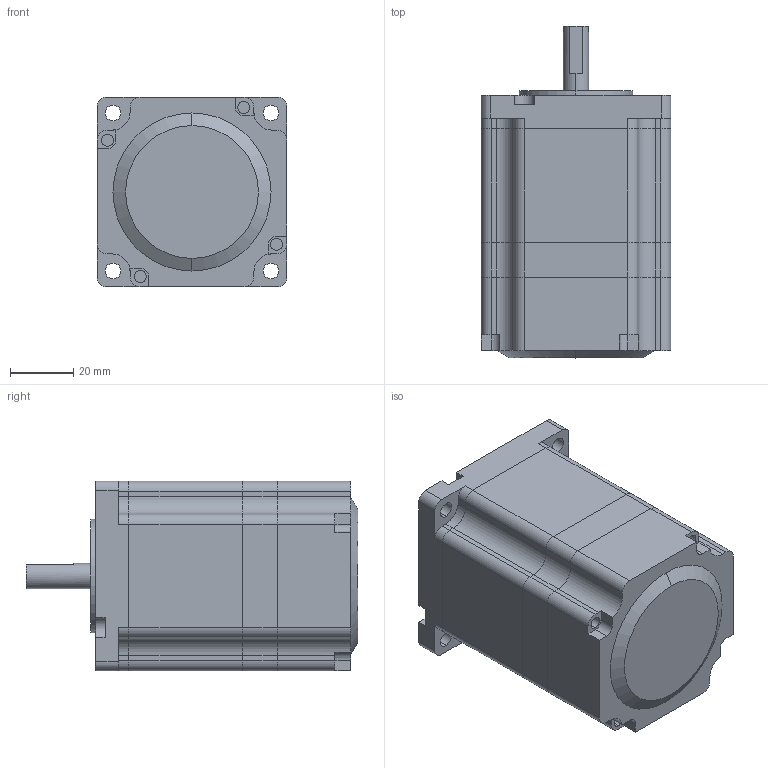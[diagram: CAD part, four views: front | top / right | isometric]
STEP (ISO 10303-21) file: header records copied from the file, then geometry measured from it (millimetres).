
FILE_DESCRIPTION (( 'STEP AP214' ), '1' );
FILE_NAME ('60HSM58E1D03Y403D0822-001.STEP', '2019-09-23T11:19:31', ( 'wimxt.com' ), ( 'wimxt.com' ), 'SwSTEP 2.0', 'SolidWorks 2014', '' );
FILE_SCHEMA (( 'AUTOMOTIVE_DESIGN' ));
Length unit declared in the file: millimetre
Products named in the file (5): 60敕遠綴欶; 60A3EC傷裔; 60A3EC菁釱; 60A3EC隅赽; 60HSM58E1D03Y403D0822-001
Assembly tree (4 placements, depth 2):
  60HSM58E1D03Y403D0822-001
    60A3EC隅赽
    60A3EC菁釱
    60A3EC傷裔
    60敕遠綴欶
Bounding box: 60 x 105 x 60 mm (x, y, z)
Volume: 103531 mm3; surface area: 59592.5 mm2
Topology: 4 solids, 4 shells, 316 faces, 866 edges, 577 vertices
Faces by surface type: plane 157, cylinder 155, torus 2, cone 2
Entity records: 10520 total; most frequent: DIRECTION 1845, CARTESIAN_POINT 1766, ORIENTED_EDGE 1732, EDGE_CURVE 866, AXIS2_PLACEMENT_3D 656, VERTEX_POINT 577, LINE 533, VECTOR 533
